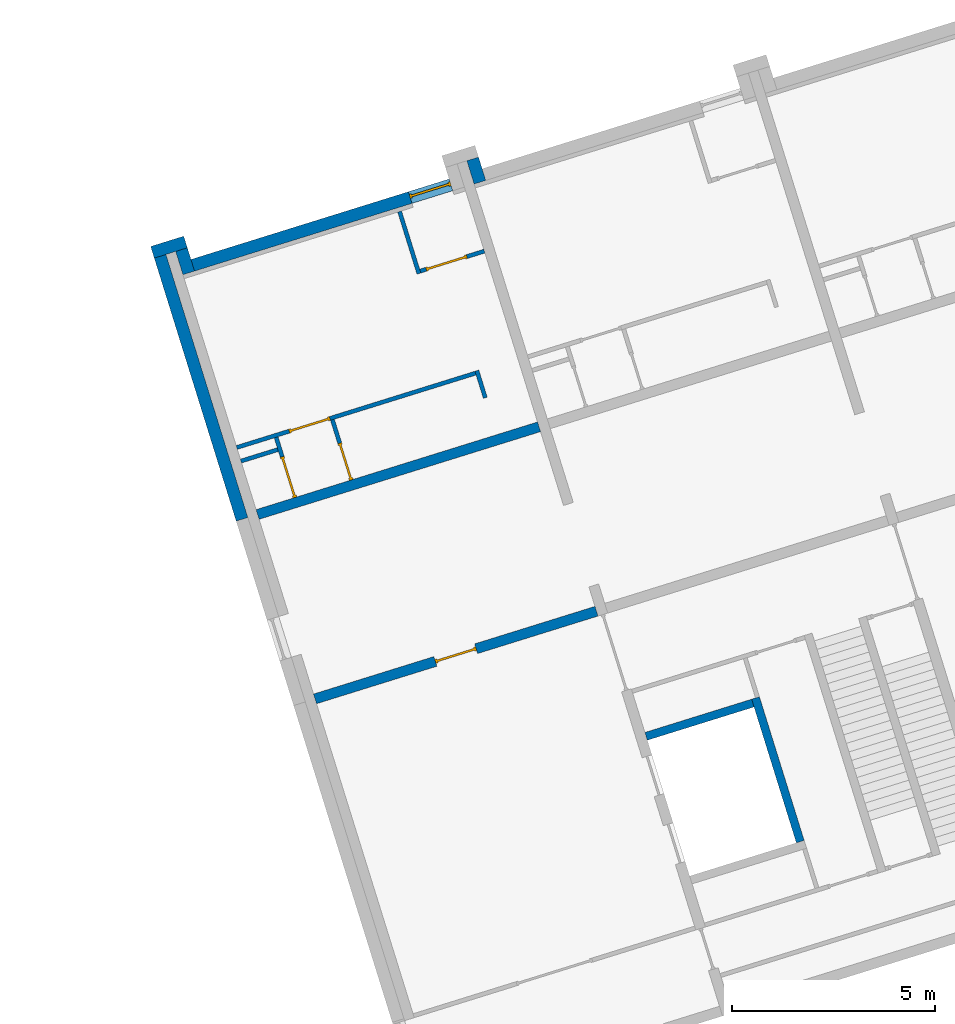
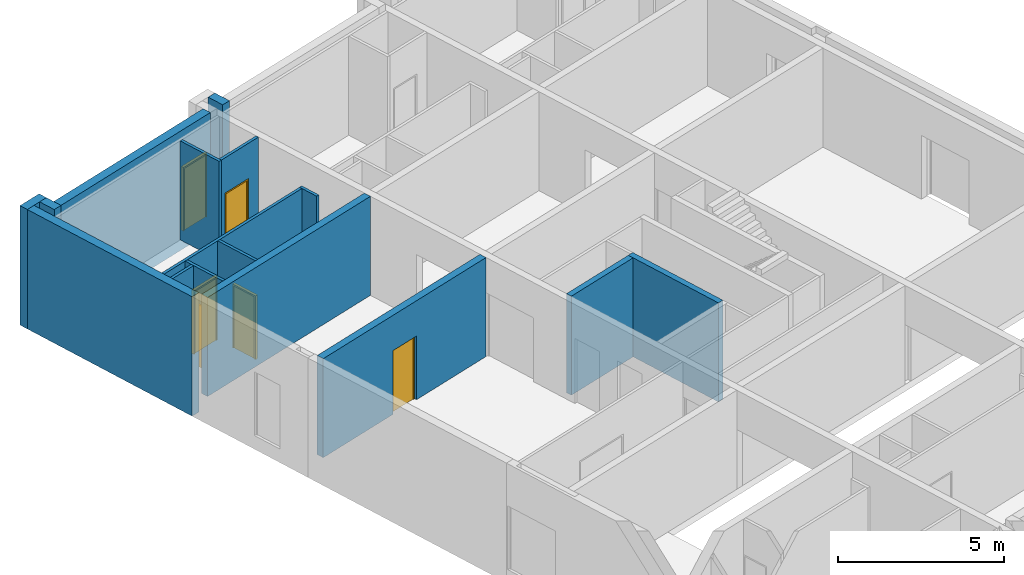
# One storey, part 4 of 10: 16 walls, 6 doors, 8 openings.
"""IFC4 building model written with IfcOpenShell, lengths in metres."""

from ifc_helpers import new_model, entity, si_unit, converted_unit, direction, frame, origin, place, context, subcontext, project, spatial, indexed_curve, outline, extrude, polygons, source, transform, mapped, material, constituent, constituent_set, type_object, type_shapes, element, fill, save


model = new_model("IFC4")

# Units and contexts
model_context = context("Model", 3, precision=1e-05, world=origin(), true_north=direction((6.12323399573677e-17, 1.0)))
body_context = subcontext(model_context, "Body", "Model", "MODEL_VIEW")
ifc_project = project(units=[si_unit("LENGTHUNIT", "METRE"), si_unit("AREAUNIT", "SQUARE_METRE"), si_unit("VOLUMEUNIT", "CUBIC_METRE"), converted_unit("PLANEANGLEUNIT", "DEGREE", entity("IfcPlaneAngleMeasure", 0.0174532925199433), si_unit("PLANEANGLEUNIT", "RADIAN"), dimensions=[0, 0, 0, 0, 0, 0, 0])], contexts=[model_context])

# Site, building, storey
site_placement = place(None, frame((13.1347999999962, 11.9886000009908, 0.0), z_axis=(0.0, 0.0, 1.0), x_axis=(0.954770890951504, 0.297342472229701, 0.0)))
site = spatial("IfcSite", under=ifc_project, at=site_placement, Name="Schiehaven", CompositionType="ELEMENT")
building_placement = place(site_placement, origin())
building = spatial("IfcBuilding", under=site, at=building_placement, Name="VORM huis", CompositionType="ELEMENT")
storey_placement = place(building_placement, origin())
storey = spatial("IfcBuildingStorey", under=building, at=storey_placement, Name="00 begane grond", CompositionType="ELEMENT", Elevation=0.0)

# Walls
ifc_material_1 = material(Name="ntb_ntb_ntb", Category="Miscellaneous")
wall_type_1 = type_object("IfcWallType", Name="Basic Wall: 300mm_gen", PredefinedType="STANDARD")
wall_1_placement = place(storey_placement, frame((4.7250000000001, 26.95, -0.5), z_axis=(0.0, 0.0, 1.0), x_axis=(0.0, 1.0, 0.0)))
element("IfcWall", 1, at=wall_1_placement, inside=storey, type_object=wall_type_1, material=ifc_material_1, Name="Gevelwand", ObjectType="Wand", PredefinedType="NOTDEFINED", context=body_context, shape_type="SweptSolid", body=[
    extrude(outline(indexed_curve([(6.77500000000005, 0.15), (-3.04922873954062e-16, 0.15), (3.04922873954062e-16, -0.15), (6.77500000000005, -0.15), (6.77500000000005, 0.15)], self_intersect=False)), origin(), (0.0, 0.0, 1.0), 4.4),
])
wall_2_placement = place(storey_placement, frame((5.42500000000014, 33.8750000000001, -0.5), z_axis=(0.0, 0.0, 1.0), x_axis=(-1.0, 0.0, 0.0)))
element("IfcWall", 2, at=wall_2_placement, inside=storey, type_object=wall_type_1, material=ifc_material_1, Name="Gevelwand", ObjectType="Wand", PredefinedType="NOTDEFINED", context=body_context, shape_type="SweptSolid", body=[
    extrude(outline(indexed_curve([(0.85000000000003, 0.150000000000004), (4.24655718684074e-16, 0.150000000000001), (-4.24655718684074e-16, -0.150000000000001), (0.850000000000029, -0.149999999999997), (0.85000000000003, 0.150000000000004)], self_intersect=False)), origin(), (0.0, 0.0, 1.0), 4.4),
])
wall_3_placement = place(storey_placement, frame((5.27500000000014, 33.1250000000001, -0.5), z_axis=(0.0, 0.0, 1.0), x_axis=(0.0, 1.0, 0.0)))
element("IfcWall", 3, at=wall_3_placement, inside=storey, type_object=wall_type_1, material=ifc_material_1, Name="Gevelwand", ObjectType="Wand", PredefinedType="NOTDEFINED", context=body_context, shape_type="SweptSolid", body=[
    extrude(outline(indexed_curve([(0.600000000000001, 0.149999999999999), (-9.66298299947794e-16, 0.149999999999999), (9.66298299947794e-16, -0.149999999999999), (0.600000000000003, -0.15), (0.600000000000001, 0.149999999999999)], self_intersect=False)), origin(), (0.0, 0.0, 1.0), 4.4),
])

# Wall, openings, door
wall_4_placement = place(storey_placement, frame((12.0750000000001, 33.275, -0.5), z_axis=(0.0, 0.0, 1.0), x_axis=(-1.0, 0.0, 0.0)))
wall_4 = element("IfcWall", 4, at=wall_4_placement, inside=storey, type_object=wall_type_1, material=ifc_material_1, Name="Gevelwand", ObjectType="Wand", PredefinedType="NOTDEFINED", context=body_context, shape_type="Tessellation", body=[
    polygons([(9.43185615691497e-16, -0.150000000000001, 0.0), (6.64999999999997, -0.150000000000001, 0.0), (6.64999999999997, -0.150000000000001, 4.4), (3.10891987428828e-15, -0.150000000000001, 4.4), (9.43185615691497e-16, -0.150000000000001, 2.84999999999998), (1.04999999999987, -0.149999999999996, 2.84999999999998), (1.04999999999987, -0.149999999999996, 0.5), (9.43185615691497e-16, -0.150000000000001, 0.5), (6.64999999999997, 0.150000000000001, 0.0), (2.12854681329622e-15, 0.150000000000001, 0.0), (2.12854681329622e-15, 0.150000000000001, 0.5), (1.04999999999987, 0.150000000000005, 0.5), (1.04999999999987, 0.150000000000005, 2.84999999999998), (2.12854681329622e-15, 0.150000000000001, 2.84999999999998), (2.12854681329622e-15, 0.150000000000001, 4.4), (6.64999999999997, 0.150000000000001, 4.4)], [[[1, 2, 3, 4, 5, 6, 7, 8]], [[9, 10, 11, 12, 13, 14, 15, 16]], [[2, 1, 10, 9]], [[4, 3, 16, 15]], [[10, 1, 8, 11]], [[3, 2, 9, 16]], [[6, 13, 12, 7]], [[7, 12, 11, 8]], [[13, 6, 5, 14]], [[4, 15, 14, 5]]], closed=True),
])
opening_1_placement = place(wall_4_placement, frame((1.04999999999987, 0.149999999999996, 0.5)))
opening_1 = element("IfcOpeningElement", 5, at=opening_1_placement, cuts=wall_4, Name="Woningtoegangsdeur", PredefinedType="OPENING", context=body_context, shape_type="SweptSolid", body=[
    extrude(outline(indexed_curve([(2.34999999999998, 0.0), (2.34999999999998, 1.05), (0.0, 1.05), (0.0, 0.0), (2.34999999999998, 0.0)], self_intersect=False)), frame((0.0, 0.0, 0.0), z_axis=(0.0, -1.0, 0.0), x_axis=(0.0, 0.0, 1.0)), (0.0, 0.0, 1.0), 0.3),
])
opening_2_placement = place(wall_4_placement, frame((12.0750000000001, 33.275, 0.5), z_axis=(0.0, 0.0, 1.0), x_axis=(-1.0, 0.0, 0.0)))
element("IfcOpeningElement", 6, at=opening_2_placement, cuts=wall_4, Name="Woningtoegangsdeur", PredefinedType="OPENING", context=body_context, shape_type="SweptSolid", body=[
    extrude(outline(indexed_curve([(-1.17499999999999, -0.525000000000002), (1.17499999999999, -0.525000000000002), (1.17499999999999, 0.525), (-1.17499999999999, 0.525), (-1.17499999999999, -0.525000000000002)], self_intersect=False)), frame((11.5500000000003, 34.649, 1.17499999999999), z_axis=(0.0, -1.0, 0.0), x_axis=(0.0, 0.0, -1.0)), (0.0, 0.0, 1.0), 3.048),
])
ifc_material_2 = material(Name="PD_a_buitenwandopeningen", Category="Miscellaneous")
ifc_constituent_1 = constituent(ifc_material_2, Name="PD_a_buitenwandopeningen", Category="Miscellaneous")
ifc_material_3 = material(Name="metaal_aluminium_ntb", Category="Miscellaneous")
ifc_constituent_2 = constituent(ifc_material_3, Name="metaal_aluminium_ntb", Category="Miscellaneous")
ifc_constituent_set_1 = constituent_set(constituents=[ifc_constituent_1, ifc_constituent_2])
door_type_1 = type_object("IfcDoorType", Name="31_DO_buitendeur enkel:woningtoegangsdeur", OperationType="REVOLVING", PredefinedType="DOOR")
shared_shape_1 = source(origin(), body_context, "Body", "SweptSolid", [
    extrude(outline(indexed_curve([(0.475, -1.16249999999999), (0.525000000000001, -1.16249999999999), (0.525000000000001, 1.18749999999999), (-0.525000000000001, 1.18749999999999), (-0.525000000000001, -1.16249999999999), (-0.475, -1.16249999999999), (-0.475, 1.13749999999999), (0.475, 1.13749999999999), (0.475, -1.16249999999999)], self_intersect=False)), frame((0.525000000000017, 0.230000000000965, 1.16249999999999), z_axis=(0.0, -1.0, 0.0), x_axis=(1.0, 0.0, 0.0)), (0.0, 0.0, 1.0), 0.1),
    extrude(outline(indexed_curve([(-0.475, -0.025), (0.475, -0.025), (0.475, 0.025), (-0.475, 0.025), (-0.475, -0.025)], self_intersect=False)), frame((0.525000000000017, 0.180000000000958, 0.0)), (0.0, 0.0, 1.0), 2.29999999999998),
])
door_1_placement = place(opening_1_placement, frame((0.0, 0.0, 0.0), z_axis=(0.0, 0.0, 1.0), x_axis=(-1.0, 0.0, 0.0)))
door_1 = element("IfcDoor", 7, at=door_1_placement, inside=storey, type_object=door_type_1, material=ifc_constituent_set_1, Name="Woningtoegangsdeur", ObjectType="Deur", OperationType="REVOLVING", OverallHeight=2.34999999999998, OverallWidth=1.05, PredefinedType="DOOR", context=body_context, shape_type="MappedRepresentation", body=[
    mapped(shared_shape_1, transform((0.0, 0.0, 0.0), scale=1.0)),
])
fill(opening_1, door_1)

# Walls
wall_5_placement = place(storey_placement, frame((12.7750000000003, 33.125, -0.5), z_axis=(0.0, 0.0, 1.0), x_axis=(0.0, 1.0, 0.0)))
element("IfcWall", 8, at=wall_5_placement, inside=storey, type_object=wall_type_1, material=ifc_material_1, Name="Gevelwand", ObjectType="Wand", PredefinedType="NOTDEFINED", context=body_context, shape_type="SweptSolid", body=[
    extrude(outline(indexed_curve([(0.600000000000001, 0.150000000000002), (-9.66298299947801e-16, 0.150000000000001), (9.66298299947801e-16, -0.150000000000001), (0.600000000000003, -0.149999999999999), (0.600000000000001, 0.150000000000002)], self_intersect=False)), origin(), (0.0, 0.0, 1.0), 4.4),
])
ifc_material_4 = material(Name="beton_gewapend_prefab-element", Category="Miscellaneous")
wall_type_2 = type_object("IfcWallType", Name="Basic Wall:28_WA_skelet_wand 200mm_gen", PredefinedType="STANDARD")
wall_6_placement = place(storey_placement, frame((15.4750000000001, 15.3, 0.0), z_axis=(0.0, 0.0, 1.0), x_axis=(0.0, 1.0, 0.0)))
element("IfcWall", 9, at=wall_6_placement, inside=storey, type_object=wall_type_2, material=ifc_material_4, Name="Constructieve wand", ObjectType="Wand", PredefinedType="NOTDEFINED", context=body_context, shape_type="SweptSolid", body=[
    extrude(outline(indexed_curve([(3.69999999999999, 0.0999999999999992), (-5.34325442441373e-16, 0.0999999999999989), (5.34325442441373e-16, -0.0999999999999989), (3.69999999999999, -0.0999999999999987), (3.69999999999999, 0.0999999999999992)], self_intersect=False)), origin(), (0.0, 0.0, 1.0), 3.65),
])
wall_7_placement = place(storey_placement, frame((15.3750000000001, 18.9, 0.0), z_axis=(0.0, 0.0, 1.0), x_axis=(-1.0, 0.0, 0.0)))
element("IfcWall", 10, at=wall_7_placement, inside=storey, type_object=wall_type_2, material=ifc_material_4, Name="Constructieve wand", ObjectType="Wand", PredefinedType="NOTDEFINED", context=body_context, shape_type="SweptSolid", body=[
    extrude(outline(indexed_curve([(2.75, 0.100000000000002), (-2.05391259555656e-16, 0.100000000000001), (2.05391259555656e-16, -0.100000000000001), (2.75, -0.0999999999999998), (2.75, 0.100000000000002)], self_intersect=False)), origin(), (0.0, 0.0, 1.0), 3.65),
])

# Wall, opening, door
wall_type_3 = type_object("IfcWallType", Name="Basic Wall:22_WA_afbouw_binnenwand 250mm_gen", PredefinedType="STANDARD")
wall_8_placement = place(storey_placement, frame((12.3750000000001, 22.2, 0.0), z_axis=(0.0, 0.0, 1.0), x_axis=(-1.0, 0.0, 0.0)))
wall_8 = element("IfcWall", 11, at=wall_8_placement, inside=storey, type_object=wall_type_3, material=ifc_material_1, Name="Binnenwand", ObjectType="Wand", PredefinedType="NOTDEFINED", context=body_context, shape_type="Tessellation", body=[
    polygons([(2.38977573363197e-16, -0.124999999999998, 0.0), (3.09999999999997, -0.124999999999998, 0.0), (3.09999999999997, -0.124999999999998, 2.34999999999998), (4.14999999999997, -0.124999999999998, 2.34999999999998), (4.14999999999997, -0.124999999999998, 0.0), (7.24999999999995, -0.124999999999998, 0.0), (7.24999999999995, -0.124999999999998, 3.65), (2.38977573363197e-16, -0.124999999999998, 3.65), (3.09999999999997, 0.125000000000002, 2.34999999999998), (3.09999999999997, 0.125000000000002, 0.0), (-8.06549310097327e-16, 0.125000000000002, 0.0), (-8.06549310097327e-16, 0.125000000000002, 3.65), (7.24999999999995, 0.125000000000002, 3.65), (7.24999999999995, 0.125000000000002, 0.0), (4.14999999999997, 0.125000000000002, 0.0), (4.14999999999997, 0.125000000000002, 2.34999999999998)], [[[1, 2, 3, 4, 5, 6, 7, 8]], [[9, 10, 11, 12, 13, 14, 15, 16]], [[11, 10, 2, 1]], [[7, 6, 14, 13]], [[8, 7, 13, 12]], [[1, 8, 12, 11]], [[5, 4, 16, 15]], [[3, 2, 10, 9]], [[4, 3, 9, 16]], [[15, 14, 6, 5]]], closed=True),
])
opening_3_placement = place(wall_8_placement, frame((3.09999999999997, -0.125000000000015, 0.0)))
opening_3 = element("IfcOpeningElement", 12, at=opening_3_placement, cuts=wall_8, Name="Vluchtdeur", PredefinedType="OPENING", context=body_context, shape_type="SweptSolid", body=[
    extrude(outline(indexed_curve([(2.34999999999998, 1.05), (0.0, 1.05), (0.0, -1.78316254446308e-29), (2.34999999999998, -1.78316254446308e-29), (2.34999999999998, 1.05)], self_intersect=False)), frame((0.0, 0.0, 0.0), z_axis=(0.0, 1.0, 0.0), x_axis=(0.0, 0.0, 1.0)), (0.0, 0.0, 1.0), 0.25),
])
ifc_material_5 = material(Name="PD_a_binnenwandopeningen", Category="Miscellaneous")
ifc_constituent_3 = constituent(ifc_material_5, Name="PD_a_binnenwandopeningen", Category="Miscellaneous")
ifc_constituent_4 = constituent(ifc_material_3, Name="metaal_aluminium_ntb", Category="Miscellaneous")
ifc_constituent_set_2 = constituent_set(constituents=[ifc_constituent_3, ifc_constituent_4])
door_type_2 = type_object("IfcDoorType", Name="32_DO_binnendeur enkel:binnendeur zelfsluitend 30min", OperationType="NOTDEFINED", PredefinedType="DOOR")
shared_shape_2 = source(origin(), body_context, "Body", "SweptSolid", [
    extrude(outline(indexed_curve([(-1.16249999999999, -0.525000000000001), (1.18749999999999, -0.525), (1.18749999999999, 0.525000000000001), (-1.16249999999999, 0.525000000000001), (-1.16249999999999, 0.475), (1.13749999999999, 0.475), (1.13749999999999, -0.475), (-1.16249999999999, -0.475), (-1.16249999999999, -0.525000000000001)], self_intersect=False)), frame((0.525000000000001, 0.0749999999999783, 1.16249999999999), z_axis=(0.0, 1.0, 0.0), x_axis=(0.0, 0.0, 1.0)), (0.0, 0.0, 1.0), 0.1),
    extrude(outline(indexed_curve([(-0.025, -0.475), (0.025, -0.475), (0.025, 0.475), (-0.025, 0.475), (-0.025, -0.475)], self_intersect=False)), frame((0.525000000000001, 0.12499999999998, 0.0), z_axis=(0.0, 0.0, 1.0), x_axis=(0.0, 1.0, 0.0)), (0.0, 0.0, 1.0), 2.29999999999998),
])
door_2_placement = place(opening_3_placement, origin())
door_2 = element("IfcDoor", 13, at=door_2_placement, inside=storey, type_object=door_type_2, material=ifc_constituent_set_2, Name="Vluchtdeur", ObjectType="Deur", OperationType="NOTDEFINED", OverallHeight=2.34999999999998, OverallWidth=1.05, PredefinedType="DOOR", context=body_context, shape_type="MappedRepresentation", body=[
    mapped(shared_shape_2, transform((0.0, 0.0, 0.0), scale=1.0)),
])
fill(opening_3, door_2)

# Wall
wall_9_placement = place(storey_placement, frame((5.12500000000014, 26.95, 0.0)))
element("IfcWall", 14, at=wall_9_placement, inside=storey, type_object=wall_type_3, material=ifc_material_1, Name="Binnenwand", ObjectType="Wand", PredefinedType="NOTDEFINED", context=body_context, shape_type="SweptSolid", body=[
    extrude(outline(indexed_curve([(7.24999999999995, 0.124999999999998), (4.69673759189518e-16, 0.125000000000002), (-4.69673759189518e-16, -0.125000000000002), (7.24999999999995, -0.125000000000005), (7.24999999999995, 0.124999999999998)], self_intersect=False)), origin(), (0.0, 0.0, 1.0), 3.65),
])

# Wall, opening, door
wall_type_4 = type_object("IfcWallType", Name="Basic Wall:22_WA_afbouw_binnenwand 100mm_gen", PredefinedType="STANDARD")
wall_10_placement = place(storey_placement, frame((7.57500000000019, 28.625, 0.0), z_axis=(0.0, 0.0, 1.0), x_axis=(0.0, -1.0, 0.0)))
wall_10 = element("IfcWall", 15, at=wall_10_placement, inside=storey, type_object=wall_type_4, material=ifc_material_1, Name="Binnenwand", ObjectType="Wand", PredefinedType="NOTDEFINED", context=body_context, shape_type="Tessellation", body=[
    polygons([(1.54999999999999, -0.0500000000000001, 3.65), (0.0, -0.0500000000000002, 3.65), (0.0, -0.0500000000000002, 2.34999999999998), (0.0, -0.0500000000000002, 0.0), (0.599999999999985, -0.0500000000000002, 0.0), (0.599999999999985, -0.0500000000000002, 2.34999999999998), (1.54999999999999, -0.0500000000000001, 2.34999999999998), (0.0, 0.0500000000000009, 3.65), (1.54999999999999, 0.0499999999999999, 3.65), (1.54999999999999, 0.0499999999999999, 2.34999999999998), (0.599999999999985, 0.0499999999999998, 2.34999999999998), (0.599999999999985, 0.0499999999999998, 0.0), (0.0, 0.0500000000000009, 0.0)], [[[1, 2, 3, 4, 5, 6, 7]], [[8, 9, 10, 11, 12, 13]], [[4, 13, 12, 5]], [[9, 1, 7, 10]], [[2, 1, 9, 8]], [[11, 6, 5, 12]], [[6, 11, 10, 7]], [[4, 3, 2, 8, 13]]], closed=True),
])
opening_4_placement = place(wall_10_placement, frame((1.54999999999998, 0.0499999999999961, 0.0)))
opening_4 = element("IfcOpeningElement", 16, at=opening_4_placement, cuts=wall_10, Name="Binnendeur", PredefinedType="OPENING", context=body_context, shape_type="SweptSolid", body=[
    extrude(outline(indexed_curve([(2.34999999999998, 2.70716782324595e-16), (2.34999999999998, 0.950000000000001), (0.0, 0.950000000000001), (0.0, 2.70716782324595e-16), (2.34999999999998, 2.70716782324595e-16)], self_intersect=False)), frame((0.0, 0.0, 0.0), z_axis=(0.0, -1.0, 0.0), x_axis=(0.0, 0.0, 1.0)), (0.0, 0.0, 1.0), 0.1),
])
ifc_constituent_5 = constituent(ifc_material_5, Name="PD_a_binnenwandopeningen", Category="Miscellaneous")
ifc_constituent_6 = constituent(ifc_material_3, Name="metaal_aluminium_ntb", Category="Miscellaneous")
ifc_constituent_set_3 = constituent_set(constituents=[ifc_constituent_5, ifc_constituent_6])
door_type_3 = type_object("IfcDoorType", Name="32_DO_binnendeur enkel:kastdeur", OperationType="REVOLVING", PredefinedType="DOOR")
shared_shape_3 = source(origin(), body_context, "Body", "SweptSolid", [
    extrude(outline(indexed_curve([(0.425, -1.16249999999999), (0.475000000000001, -1.16249999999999), (0.475000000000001, 1.18749999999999), (-0.475000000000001, 1.18749999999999), (-0.475000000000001, -1.16249999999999), (-0.425, -1.16249999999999), (-0.425, 1.13749999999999), (0.425, 1.13749999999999), (0.425, -1.16249999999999)], self_intersect=False)), frame((0.475000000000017, 0.100000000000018, 1.16249999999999), z_axis=(0.0, -1.0, 0.0), x_axis=(1.0, 0.0, 0.0)), (0.0, 0.0, 1.0), 0.1),
    extrude(outline(indexed_curve([(-0.425, -0.025), (0.425, -0.025), (0.425, 0.025), (-0.425, 0.025), (-0.425, -0.025)], self_intersect=False)), frame((0.475000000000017, 0.0499999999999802, 0.0)), (0.0, 0.0, 1.0), 2.29999999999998),
])
door_3_placement = place(opening_4_placement, frame((0.0, 0.0, 0.0), z_axis=(0.0, 0.0, 1.0), x_axis=(-1.0, 0.0, 0.0)))
door_3 = element("IfcDoor", 17, at=door_3_placement, inside=storey, type_object=door_type_3, material=ifc_constituent_set_3, Name="Binnendeur", ObjectType="Deur", OperationType="REVOLVING", OverallHeight=2.34999999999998, OverallWidth=0.950000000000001, PredefinedType="DOOR", context=body_context, shape_type="MappedRepresentation", body=[
    mapped(shared_shape_3, transform((0.0, 0.0, 0.0), scale=1.0)),
])
fill(opening_4, door_3)

# Wall, openings, door
wall_11_placement = place(storey_placement, frame((11.2750000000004, 28.6749999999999, 0.0), z_axis=(0.0, 0.0, 1.0), x_axis=(-1.0, 0.0, 0.0)))
wall_11 = element("IfcWall", 18, at=wall_11_placement, inside=storey, type_object=wall_type_4, material=ifc_material_1, Name="Binnenwand", ObjectType="Wand", PredefinedType="NOTDEFINED", context=body_context, shape_type="Tessellation", body=[
    polygons([(3.27113411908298e-15, -0.0499999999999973, 0.0), (3.7500000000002, -0.0499999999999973, 0.0), (3.7500000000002, -0.0499999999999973, 2.34999999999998), (4.8000000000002, -0.0499999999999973, 2.34999999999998), (4.8000000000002, -0.0499999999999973, 0.0), (6.15000000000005, -0.049999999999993, 0.0), (6.15000000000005, -0.049999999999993, 3.65), (1.1053998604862e-15, -0.0499999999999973, 3.65), (3.7500000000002, 0.0500000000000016, 2.34999999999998), (3.7500000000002, 0.0500000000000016, 0.0), (3.6500000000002, 0.0500000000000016, 0.0), (7.47193037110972e-16, 0.0500000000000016, 0.0), (2.91292729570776e-15, 0.0500000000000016, 3.65), (3.6500000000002, 0.0500000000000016, 3.65), (3.7500000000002, 0.0500000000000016, 3.65), (5.10000000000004, 0.0500000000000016, 3.65), (5.20000000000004, 0.0500000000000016, 3.65), (6.15000000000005, 0.0500000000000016, 3.65), (6.15000000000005, 0.0500000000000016, 0.0), (5.20000000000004, 0.0500000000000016, 0.0), (5.10000000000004, 0.0500000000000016, 0.0), (4.8000000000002, 0.0500000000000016, 0.0), (4.8000000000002, 0.0500000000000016, 2.34999999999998)], [[[1, 2, 3, 4, 5, 6, 7, 8]], [[9, 10, 11, 12, 13, 14, 15, 16, 17, 18, 19, 20, 21, 22, 23]], [[12, 11, 10, 2, 1]], [[7, 6, 19, 18]], [[8, 7, 18, 17, 16, 15, 14, 13]], [[5, 4, 23, 22]], [[3, 2, 10, 9]], [[4, 3, 9, 23]], [[1, 8, 13, 12]], [[22, 21, 20, 19, 6, 5]]], closed=True),
])
opening_5_placement = place(wall_11_placement, frame((4.8000000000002, 0.0499999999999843, 0.0)))
opening_5 = element("IfcOpeningElement", 19, at=opening_5_placement, cuts=wall_11, Name="Binnendeur", PredefinedType="OPENING", context=body_context, shape_type="SweptSolid", body=[
    extrude(outline(indexed_curve([(2.34999999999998, -3.03039370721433e-32), (2.34999999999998, 1.05), (0.0, 1.05), (0.0, -3.03039370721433e-32), (2.34999999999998, -3.03039370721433e-32)], self_intersect=False)), frame((0.0, 0.0, 0.0), z_axis=(0.0, -1.0, 0.0), x_axis=(0.0, 0.0, 1.0)), (0.0, 0.0, 1.0), 0.1),
])
opening_6_placement = place(wall_11_placement, frame((11.2750000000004, 28.6749999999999, 0.0), z_axis=(0.0, 0.0, 1.0), x_axis=(-1.0, 0.0, 0.0)))
element("IfcOpeningElement", 20, at=opening_6_placement, cuts=wall_11, Name="Binnendeur", PredefinedType="OPENING", context=body_context, shape_type="SweptSolid", body=[
    extrude(outline(indexed_curve([(-1.17499999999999, -0.525000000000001), (1.17499999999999, -0.525000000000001), (1.17499999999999, 0.525), (-1.17499999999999, 0.525), (-1.17499999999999, -0.525000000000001)], self_intersect=False)), frame((7.0, 30.149, 1.17499999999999), z_axis=(0.0, -1.0, 0.0), x_axis=(0.0, 0.0, -1.0)), (0.0, 0.0, 1.0), 3.048),
])
ifc_constituent_7 = constituent(ifc_material_5, Name="PD_a_binnenwandopeningen", Category="Miscellaneous")
ifc_constituent_8 = constituent(ifc_material_3, Name="metaal_aluminium_ntb", Category="Miscellaneous")
ifc_constituent_set_4 = constituent_set(constituents=[ifc_constituent_7, ifc_constituent_8])
door_type_4 = type_object("IfcDoorType", Name="32_DO_binnendeur enkel:binnendeur", OperationType="REVOLVING", PredefinedType="DOOR")
shared_shape_4 = source(origin(), body_context, "Body", "SweptSolid", [
    extrude(outline(indexed_curve([(0.475, -1.16249999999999), (0.525, -1.16249999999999), (0.525, 1.18749999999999), (-0.525, 1.18749999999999), (-0.525, -1.16249999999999), (-0.475, -1.16249999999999), (-0.475, 1.13749999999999), (0.475, 1.13749999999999), (0.475, -1.16249999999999)], self_intersect=False)), frame((0.525000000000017, 0.100000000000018, 1.16249999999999), z_axis=(0.0, -1.0, 0.0), x_axis=(1.0, 0.0, 0.0)), (0.0, 0.0, 1.0), 0.1),
    extrude(outline(indexed_curve([(-0.475, -0.025), (0.475, -0.025), (0.475, 0.025), (-0.475, 0.025), (-0.475, -0.025)], self_intersect=False)), frame((0.525000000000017, 0.0499999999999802, 0.0)), (0.0, 0.0, 1.0), 2.29999999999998),
])
door_4_placement = place(opening_5_placement, frame((0.0, 0.0, 0.0), z_axis=(0.0, 0.0, 1.0), x_axis=(-1.0, 0.0, 0.0)))
door_4 = element("IfcDoor", 21, at=door_4_placement, inside=storey, type_object=door_type_4, material=ifc_constituent_set_4, Name="Binnendeur", ObjectType="Deur", OperationType="REVOLVING", OverallHeight=2.34999999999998, OverallWidth=1.05, PredefinedType="DOOR", context=body_context, shape_type="MappedRepresentation", body=[
    mapped(shared_shape_4, transform((0.0, 0.0, 0.0), scale=1.0)),
])
fill(opening_5, door_4)

# Wall
wall_12_placement = place(storey_placement, frame((5.12500000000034, 28.325, 0.0)))
element("IfcWall", 22, at=wall_12_placement, inside=storey, type_object=wall_type_4, material=ifc_material_1, Name="Binnenwand", ObjectType="Wand", PredefinedType="NOTDEFINED", context=body_context, shape_type="SweptSolid", body=[
    extrude(outline(indexed_curve([(0.950000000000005, 0.0500000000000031), (-7.64077819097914e-17, 0.0500000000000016), (7.64077819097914e-17, -0.0500000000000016), (0.950000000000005, -0.0500000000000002), (0.950000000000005, 0.0500000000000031)], self_intersect=False)), origin(), (0.0, 0.0, 1.0), 3.65),
])

# Wall, opening, door
wall_13_placement = place(storey_placement, frame((6.12500000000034, 27.075, 0.0), z_axis=(0.0, 0.0, 1.0), x_axis=(0.0, 1.0, 0.0)))
wall_13 = element("IfcWall", 23, at=wall_13_placement, inside=storey, type_object=wall_type_4, material=ifc_material_1, Name="Binnenwand", ObjectType="Wand", PredefinedType="NOTDEFINED", context=body_context, shape_type="Tessellation", body=[
    polygons([(1.54999999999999, -0.0500000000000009, 3.65), (0.0, -0.050000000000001, 3.65), (0.0, -0.050000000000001, 2.34999999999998), (1.05, -0.0500000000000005, 2.34999999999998), (1.05, -0.0500000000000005, 0.0), (1.54999999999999, -0.0500000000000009, 0.0), (0.0, 0.049999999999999, 3.65), (1.2, 0.05, 3.65), (1.29999999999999, 0.0499999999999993, 3.65), (1.54999999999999, 0.0499999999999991, 3.65), (1.54999999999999, 0.0499999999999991, 0.0), (1.29999999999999, 0.0499999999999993, 0.0), (1.2, 0.05, 0.0), (1.05, 0.0499999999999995, 0.0), (1.05, 0.0499999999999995, 2.34999999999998), (0.0, 0.049999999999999, 2.34999999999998)], [[[1, 2, 3, 4, 5, 6]], [[7, 8, 9, 10, 11, 12, 13, 14, 15, 16]], [[11, 6, 5, 14, 13, 12]], [[2, 1, 10, 9, 8, 7]], [[2, 7, 16, 3]], [[4, 15, 14, 5]], [[15, 4, 3, 16]], [[1, 6, 11, 10]]], closed=True),
])
opening_7_placement = place(wall_13_placement, frame((1.05000000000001, 0.0499999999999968, 0.0)))
opening_7 = element("IfcOpeningElement", 24, at=opening_7_placement, cuts=wall_13, Name="Binnendeur", PredefinedType="OPENING", context=body_context, shape_type="SweptSolid", body=[
    extrude(outline(indexed_curve([(2.34999999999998, -2.0303637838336e-30), (2.34999999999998, 1.05), (0.0, 1.05), (0.0, -2.0303637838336e-30), (2.34999999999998, -2.0303637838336e-30)], self_intersect=False)), frame((0.0, 0.0, 0.0), z_axis=(0.0, -1.0, 0.0), x_axis=(0.0, 0.0, 1.0)), (0.0, 0.0, 1.0), 0.1),
])
ifc_constituent_9 = constituent(ifc_material_5, Name="PD_a_binnenwandopeningen", Category="Miscellaneous")
ifc_constituent_10 = constituent(ifc_material_3, Name="metaal_aluminium_ntb", Category="Miscellaneous")
ifc_constituent_set_5 = constituent_set(constituents=[ifc_constituent_9, ifc_constituent_10])
door_5_placement = place(opening_7_placement, frame((0.0, 0.0, 0.0), z_axis=(0.0, 0.0, 1.0), x_axis=(-1.0, 0.0, 0.0)))
door_5 = element("IfcDoor", 25, at=door_5_placement, inside=storey, type_object=door_type_4, material=ifc_constituent_set_5, Name="Binnendeur", ObjectType="Deur", OperationType="REVOLVING", OverallHeight=2.34999999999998, OverallWidth=1.05, PredefinedType="DOOR", context=body_context, shape_type="MappedRepresentation", body=[
    mapped(shared_shape_4, transform((0.0, 0.0, 0.0), scale=1.0)),
])
fill(opening_7, door_5)

# Wall
wall_14_placement = place(storey_placement, frame((11.3250000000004, 28.0249999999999, 0.0), z_axis=(0.0, 0.0, 1.0), x_axis=(0.0, 1.0, 0.0)))
element("IfcWall", 26, at=wall_14_placement, inside=storey, type_object=wall_type_4, material=ifc_material_1, Name="Binnenwand", ObjectType="Wand", PredefinedType="NOTDEFINED", context=body_context, shape_type="SweptSolid", body=[
    extrude(outline(indexed_curve([(0.699999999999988, 0.0499999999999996), (-1.250846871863e-17, 0.0499999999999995), (1.250846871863e-17, -0.0499999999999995), (0.699999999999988, -0.0499999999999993), (0.699999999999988, 0.0499999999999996)], self_intersect=False)), origin(), (0.0, 0.0, 1.0), 3.65),
])

# Wall, opening, door
wall_15_placement = place(storey_placement, frame((12.3750000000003, 31.475, 0.0), z_axis=(0.0, 0.0, 1.0), x_axis=(-1.0, 0.0, 0.0)))
wall_15 = element("IfcWall", 27, at=wall_15_placement, inside=storey, type_object=wall_type_4, material=ifc_material_1, Name="Binnenwand", ObjectType="Wand", PredefinedType="NOTDEFINED", context=body_context, shape_type="Tessellation", body=[
    polygons([(1.49999999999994, -0.0500000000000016, 2.34999999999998), (1.49999999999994, -0.0500000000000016, 0.0), (1.64999999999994, -0.049999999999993, 0.0), (1.64999999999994, -0.049999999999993, 3.65), (-1.11745698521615e-15, -0.0499999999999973, 3.65), (-1.11745698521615e-15, -0.0499999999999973, 0.0), (0.449999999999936, -0.0500000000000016, 0.0), (0.449999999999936, -0.0500000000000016, 2.34999999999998), (1.64999999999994, 0.050000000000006, 0.0), (1.49999999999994, 0.0500000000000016, 0.0), (1.49999999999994, 0.0500000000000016, 2.34999999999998), (0.449999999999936, 0.0500000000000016, 2.34999999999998), (0.449999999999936, 0.0500000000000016, 0.0), (-8.11636955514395e-16, 0.050000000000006, 0.0), (-8.11636955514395e-16, 0.050000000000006, 3.65), (1.64999999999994, 0.050000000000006, 3.65)], [[[1, 2, 3, 4, 5, 6, 7, 8]], [[9, 10, 11, 12, 13, 14, 15, 16]], [[7, 6, 14, 13]], [[5, 4, 16, 15]], [[6, 5, 15, 14]], [[13, 12, 8, 7]], [[11, 10, 2, 1]], [[12, 11, 1, 8]], [[4, 3, 9, 16]], [[3, 2, 10, 9]]], closed=True),
])
opening_8_placement = place(wall_15_placement, frame((1.49999999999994, 0.0500000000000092, 0.0)))
opening_8 = element("IfcOpeningElement", 28, at=opening_8_placement, cuts=wall_15, Name="Binnendeur", PredefinedType="OPENING", context=body_context, shape_type="SweptSolid", body=[
    extrude(outline(indexed_curve([(2.34999999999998, 1.05), (0.0, 1.05), (0.0, 1.353583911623e-15), (2.34999999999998, 1.353583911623e-15), (2.34999999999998, 1.05)], self_intersect=False)), frame((0.0, 0.0, 0.0), z_axis=(0.0, -1.0, 0.0), x_axis=(0.0, 0.0, 1.0)), (0.0, 0.0, 1.0), 0.1),
])
ifc_constituent_11 = constituent(ifc_material_5, Name="PD_a_binnenwandopeningen", Category="Miscellaneous")
ifc_constituent_12 = constituent(ifc_material_3, Name="metaal_aluminium_ntb", Category="Miscellaneous")
ifc_constituent_set_6 = constituent_set(constituents=[ifc_constituent_11, ifc_constituent_12])
shared_shape_5 = source(origin(), body_context, "Body", "SweptSolid", [
    extrude(outline(indexed_curve([(-1.16249999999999, -0.525000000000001), (1.18749999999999, -0.525), (1.18749999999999, 0.525), (-1.16249999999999, 0.525), (-1.16249999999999, 0.475), (1.13749999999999, 0.475), (1.13749999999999, -0.475), (-1.16249999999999, -0.475), (-1.16249999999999, -0.525000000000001)], self_intersect=False)), frame((0.525000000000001, 0.0, 1.16249999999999), z_axis=(0.0, 1.0, 0.0), x_axis=(0.0, 0.0, 1.0)), (0.0, 0.0, 1.0), 0.1),
    extrude(outline(indexed_curve([(-0.025, -0.475), (0.025, -0.475), (0.025, 0.475), (-0.025, 0.475), (-0.025, -0.475)], self_intersect=False)), frame((0.525000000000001, 0.0499999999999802, 0.0), z_axis=(0.0, 0.0, 1.0), x_axis=(0.0, 1.0, 0.0)), (0.0, 0.0, 1.0), 2.29999999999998),
])
type_shapes(door_type_4, [shared_shape_5])
door_6_placement = place(opening_8_placement, frame((0.0, 0.0, 0.0), z_axis=(0.0, 0.0, 1.0), x_axis=(-1.0, 0.0, 0.0)))
door_6 = element("IfcDoor", 29, at=door_6_placement, inside=storey, type_object=door_type_4, material=ifc_constituent_set_6, Name="Binnendeur", ObjectType="Deur", OperationType="REVOLVING", OverallHeight=2.34999999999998, OverallWidth=1.05, PredefinedType="DOOR", context=body_context, shape_type="MappedRepresentation", body=[
    mapped(shared_shape_5, transform((0.0, 0.0, 0.0), scale=1.0)),
])
fill(opening_8, door_6)

# Wall
wall_16_placement = place(storey_placement, frame((10.6750000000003, 31.425, 0.0), z_axis=(0.0, 0.0, 1.0), x_axis=(0.0, 1.0, 0.0)))
element("IfcWall", 30, at=wall_16_placement, inside=storey, type_object=wall_type_4, material=ifc_material_1, Name="Binnenwand", ObjectType="Wand", PredefinedType="NOTDEFINED", context=body_context, shape_type="SweptSolid", body=[
    extrude(outline(indexed_curve([(1.6, 0.0499999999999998), (5.83803322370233e-17, 0.0499999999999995), (-5.83803322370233e-17, -0.0499999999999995), (1.6, -0.0499999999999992), (1.6, 0.0499999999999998)], self_intersect=False)), origin(), (0.0, 0.0, 1.0), 3.65),
])

save(model, "model.ifc")
